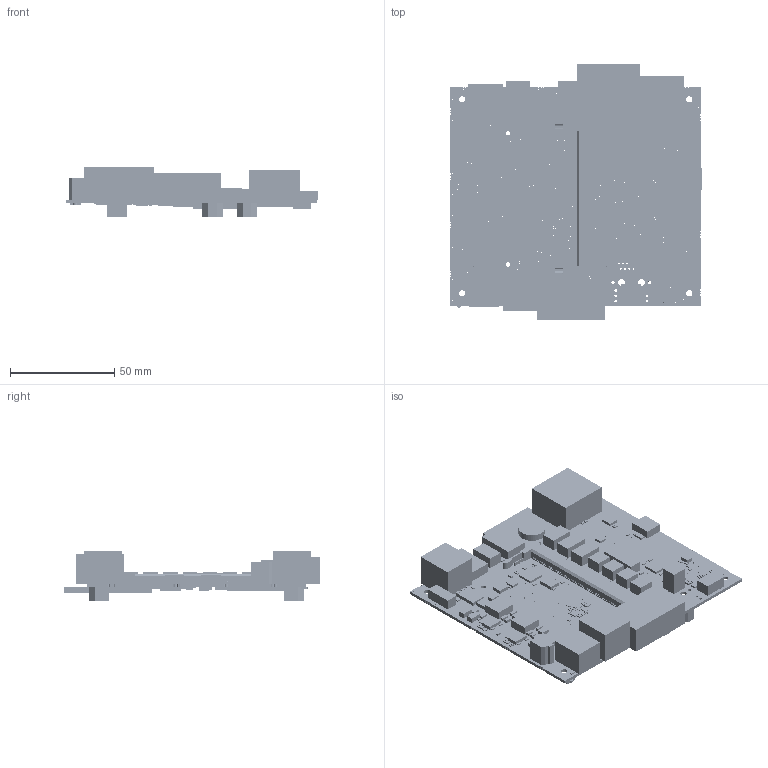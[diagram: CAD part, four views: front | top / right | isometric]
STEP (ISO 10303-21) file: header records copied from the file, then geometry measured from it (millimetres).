
FILE_DESCRIPTION (( 'STEP AP203' ), '1' );
FILE_NAME ('VAR-AM33-26-07-2012.STEP', '2012-07-26T08:43:09', ( 'gaby' ), ( '' ), 'SwSTEP 2.0', 'SolidWorks 2011', '' );
FILE_SCHEMA (( 'CONFIG_CONTROL_DESIGN' ));
Products named in the file (3): VAR-AM33-26-07-2012; 10033853-0XXXX_Downloaded; VAR-AM33-CustomBoard-V-1.0_end
Assembly tree (2 placements, depth 2):
  VAR-AM33-26-07-2012
    10033853-0XXXX_Downloaded
    VAR-AM33-CustomBoard-V-1.0_end
Bounding box: 120.32 x 123.05 x 23.67 mm (x, y, z)
Volume: 69544.2 mm3; surface area: 60603.1 mm2
Topology: 372 solids, 372 shells, 9856 faces, 25300 edges, 15998 vertices
Faces by surface type: plane 6511, cylinder 3341, cone 4
Entity records: 301371 total; most frequent: DIRECTION 52108, CARTESIAN_POINT 51171, ORIENTED_EDGE 50600, EDGE_CURVE 25300, VECTOR 18206, LINE 18206, AXIS2_PLACEMENT_3D 16951, VERTEX_POINT 15998
